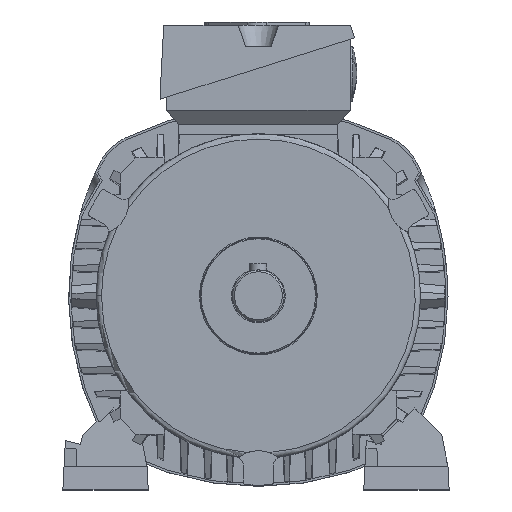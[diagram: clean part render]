
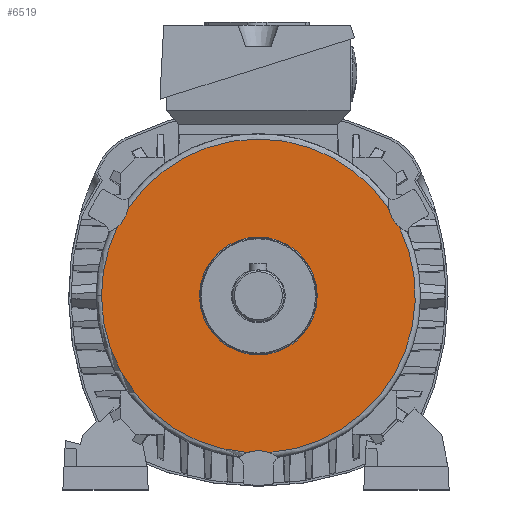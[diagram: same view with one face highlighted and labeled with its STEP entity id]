
A CAD part, top view. The second image highlights one B-rep face of the part: STEP entity #6519.
In plain terms, the highlighted planar face has unit normal (0, 0, 1).
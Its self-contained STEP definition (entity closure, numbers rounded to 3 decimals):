
#139 = CARTESIAN_POINT ( 'NONE',  ( 75.344, 43.5, 29. ) ) ;
#1009 = EDGE_CURVE ( 'NONE', #26377, #5626, #22945, .T. ) ;
#1546 = DIRECTION ( 'NONE',  ( -1., 0., 0. ) ) ;
#1683 = AXIS2_PLACEMENT_3D ( 'NONE', #9564, #23818, #11570 ) ;
#2180 = DIRECTION ( 'NONE',  ( 1., 0., 0. ) ) ;
#2241 = DIRECTION ( 'NONE',  ( 0., 0., -1. ) ) ;
#2408 = DIRECTION ( 'NONE',  ( 0., 0., -1. ) ) ;
#2457 = CARTESIAN_POINT ( 'NONE',  ( 0., 0., 29. ) ) ;
#3266 = AXIS2_PLACEMENT_3D ( 'NONE', #3997, #18304, #6039 ) ;
#3771 = ORIENTED_EDGE ( 'NONE', *, *, #15839, .T. ) ;
#3997 = CARTESIAN_POINT ( 'NONE',  ( 0., -87., 29. ) ) ;
#4005 = EDGE_CURVE ( 'NONE', #25736, #20992, #23643, .T. ) ;
#4501 = DIRECTION ( 'NONE',  ( -1., 0., 0. ) ) ;
#4609 = ORIENTED_EDGE ( 'NONE', *, *, #6808, .T. ) ;
#4800 = DIRECTION ( 'NONE',  ( 0., 0., -1. ) ) ;
#4850 = ORIENTED_EDGE ( 'NONE', *, *, #4005, .F. ) ;
#4884 = CARTESIAN_POINT ( 'NONE',  ( -65.541, 32.147, 29. ) ) ;
#5534 = CARTESIAN_POINT ( 'NONE',  ( -60.61, 40.686, 29. ) ) ;
#5626 = VERTEX_POINT ( 'NONE', #15350 ) ;
#5882 = ORIENTED_EDGE ( 'NONE', *, *, #16350, .F. ) ;
#6039 = DIRECTION ( 'NONE',  ( 1., 0., 0. ) ) ;
#6258 = VERTEX_POINT ( 'NONE', #11720 ) ;
#6488 = FACE_BOUND ( 'NONE', #11647, .T. ) ;
#6519 = ADVANCED_FACE ( 'NONE', ( #6488, #11918 ), #16630, .T. ) ;
#6527 = CARTESIAN_POINT ( 'NONE',  ( 0., 73., 29. ) ) ;
#6785 = VERTEX_POINT ( 'NONE', #9497 ) ;
#6808 = EDGE_CURVE ( 'NONE', #24783, #6785, #20145, .T. ) ;
#7278 = CARTESIAN_POINT ( 'NONE',  ( -4.93, -72.833, 29. ) ) ;
#7337 = ORIENTED_EDGE ( 'NONE', *, *, #19643, .T. ) ;
#7424 = CIRCLE ( 'NONE', #3266, 15. ) ;
#7515 = ORIENTED_EDGE ( 'NONE', *, *, #8503, .F. ) ;
#8503 = EDGE_CURVE ( 'NONE', #18461, #6258, #25346, .T. ) ;
#8612 = DIRECTION ( 'NONE',  ( 1., 0., 0. ) ) ;
#9497 = CARTESIAN_POINT ( 'NONE',  ( 27.4, 0., 29. ) ) ;
#9564 = CARTESIAN_POINT ( 'NONE',  ( 0., 0., 29. ) ) ;
#9990 = AXIS2_PLACEMENT_3D ( 'NONE', #14599, #2408, #16680 ) ;
#11200 = EDGE_LOOP ( 'NONE', ( #4850, #23620, #5882, #7515, #3771, #15226, #11298 ) ) ;
#11298 = ORIENTED_EDGE ( 'NONE', *, *, #16758, .T. ) ;
#11570 = DIRECTION ( 'NONE',  ( -1., 0., 0. ) ) ;
#11606 = DIRECTION ( 'NONE',  ( 0., 0., -1. ) ) ;
#11647 = EDGE_LOOP ( 'NONE', ( #4609, #7337 ) ) ;
#11720 = CARTESIAN_POINT ( 'NONE',  ( -73., 0., 29. ) ) ;
#11918 = FACE_OUTER_BOUND ( 'NONE', #11200, .T. ) ;
#12093 = CARTESIAN_POINT ( 'NONE',  ( 65.541, 32.147, 29. ) ) ;
#12661 = AXIS2_PLACEMENT_3D ( 'NONE', #23862, #11606, #25883 ) ;
#13706 = DIRECTION ( 'NONE',  ( 0., 0., -1. ) ) ;
#14354 = DIRECTION ( 'NONE',  ( 0., 0., -1. ) ) ;
#14421 = CARTESIAN_POINT ( 'NONE',  ( 0., 0., 29. ) ) ;
#14599 = CARTESIAN_POINT ( 'NONE',  ( 0., 0., 29. ) ) ;
#15226 = ORIENTED_EDGE ( 'NONE', *, *, #1009, .F. ) ;
#15350 = CARTESIAN_POINT ( 'NONE',  ( 4.93, -72.833, 29. ) ) ;
#15839 = EDGE_CURVE ( 'NONE', #18461, #5626, #7424, .T. ) ;
#15853 = AXIS2_PLACEMENT_3D ( 'NONE', #139, #14354, #2180 ) ;
#16350 = EDGE_CURVE ( 'NONE', #6258, #22918, #26173, .T. ) ;
#16494 = DIRECTION ( 'NONE',  ( -1., 0., 0. ) ) ;
#16630 = PLANE ( 'NONE',  #24240 ) ;
#16680 = DIRECTION ( 'NONE',  ( -1., 0., 0. ) ) ;
#16726 = DIRECTION ( 'NONE',  ( 0., 0., -1. ) ) ;
#16758 = EDGE_CURVE ( 'NONE', #26377, #20992, #25253, .T. ) ;
#17043 = CARTESIAN_POINT ( 'NONE',  ( -75.344, 43.5, 29. ) ) ;
#18111 = CARTESIAN_POINT ( 'NONE',  ( -27.4, 0., 29. ) ) ;
#18292 = AXIS2_PLACEMENT_3D ( 'NONE', #2457, #16726, #4501 ) ;
#18304 = DIRECTION ( 'NONE',  ( 0., 0., -1. ) ) ;
#18461 = VERTEX_POINT ( 'NONE', #7278 ) ;
#19109 = DIRECTION ( 'NONE',  ( 1., 0., 0. ) ) ;
#19130 = AXIS2_PLACEMENT_3D ( 'NONE', #25966, #13706, #1546 ) ;
#19643 = EDGE_CURVE ( 'NONE', #6785, #24783, #20788, .T. ) ;
#20145 = CIRCLE ( 'NONE', #19130, 27.4 ) ;
#20788 = CIRCLE ( 'NONE', #9990, 27.4 ) ;
#20850 = DIRECTION ( 'NONE',  ( 0., 0., 1. ) ) ;
#20992 = VERTEX_POINT ( 'NONE', #23786 ) ;
#21220 = AXIS2_PLACEMENT_3D ( 'NONE', #17043, #4800, #19109 ) ;
#21876 = AXIS2_PLACEMENT_3D ( 'NONE', #14421, #2241, #16494 ) ;
#22860 = EDGE_CURVE ( 'NONE', #25736, #22918, #25165, .T. ) ;
#22918 = VERTEX_POINT ( 'NONE', #4884 ) ;
#22945 = CIRCLE ( 'NONE', #21876, 73. ) ;
#23620 = ORIENTED_EDGE ( 'NONE', *, *, #22860, .T. ) ;
#23643 = CIRCLE ( 'NONE', #12661, 73. ) ;
#23786 = CARTESIAN_POINT ( 'NONE',  ( 60.61, 40.686, 29. ) ) ;
#23818 = DIRECTION ( 'NONE',  ( 0., 0., -1. ) ) ;
#23862 = CARTESIAN_POINT ( 'NONE',  ( 0., 0., 29. ) ) ;
#24240 = AXIS2_PLACEMENT_3D ( 'NONE', #6527, #20850, #8612 ) ;
#24783 = VERTEX_POINT ( 'NONE', #18111 ) ;
#25165 = CIRCLE ( 'NONE', #21220, 15. ) ;
#25253 = CIRCLE ( 'NONE', #15853, 15. ) ;
#25346 = CIRCLE ( 'NONE', #1683, 73. ) ;
#25736 = VERTEX_POINT ( 'NONE', #5534 ) ;
#25883 = DIRECTION ( 'NONE',  ( -1., 0., 0. ) ) ;
#25966 = CARTESIAN_POINT ( 'NONE',  ( 0., 0., 29. ) ) ;
#26173 = CIRCLE ( 'NONE', #18292, 73. ) ;
#26377 = VERTEX_POINT ( 'NONE', #12093 ) ;
